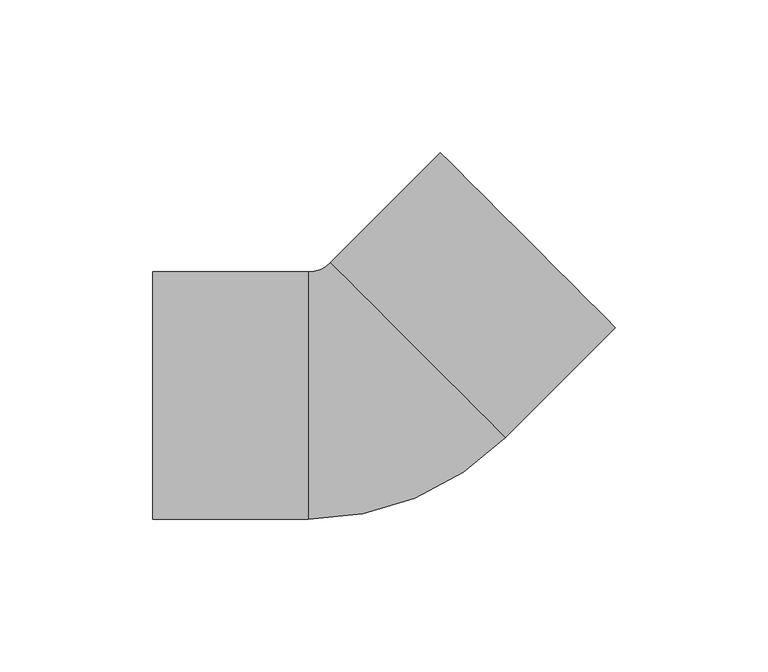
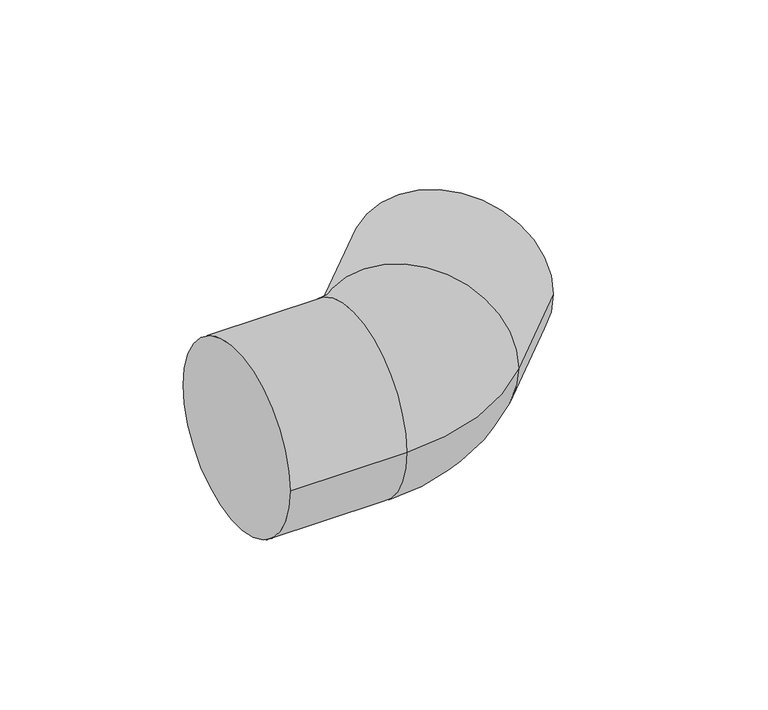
"""IFC4 building model written with IfcOpenShell, lengths in millimetres: pipe fitting geometry, 01051067 : Coudes à 45º."""

from ifc_helpers import new_model, si_unit, point, frame, origin, place, context, project, spatial, circle_curve, ellipse_curve, trimmed, source, transform, mapped, element, save
from ifc_brep_helpers import plane_surface, cylinder_surface, revolved_surface, advanced_brep


def pipe_fitting_8a1e7b22(model_context):
    return source(origin(), model_context, "Body", "AdvancedBrep", [
        advanced_brep(
        [(-72.0, -40.5, 0.0), (-72.0, 40.5, 0.0), (-21.0, -40.5, 0.0), (-21.0, 40.5, 0.0), (-13.7885822, 43.487067, 0.0), (43.487067, -13.7885822, 0.0), (79.5495129, 22.2738636, 0.0), (22.2738636, 79.5495129, 0.0)],
        [
            (0, 1, circle_curve(frame((-72.0, 0.0, 0.0), z_axis=(-1.0, 0.0, 0.0), x_axis=(0.0, 1.0, 0.0)), 40.5)),
            (1, 0, circle_curve(frame((-72.0, 0.0, 0.0), z_axis=(-1.0, 0.0, 0.0), x_axis=(0.0, 1.0, 0.0)), 40.5)),
            (0, 2),
            (2, 3, circle_curve(frame((-21.0, 0.0, 0.0), z_axis=(-1.0, 0.0, 0.0), x_axis=(0.0, 1.0, 0.0)), 40.5)),
            (3, 1),
            (3, 2, circle_curve(frame((-21.0, 0.0, 0.0), z_axis=(-1.0, 0.0, 0.0), x_axis=(0.0, 1.0, 0.0)), 40.5)),
            (4, 3, circle_curve(frame((-21.0, 50.6984848, 0.0), z_axis=(0.0, 0.0, -1.0), x_axis=(0.0, -1.0, 0.0)), 10.1984848)),
            (2, 5, circle_curve(frame((-21.0, 50.6984848, 0.0), z_axis=(0.0, 0.0, 1.0), x_axis=(0.0, -1.0, 0.0)), 91.1984848)),
            (5, 4, circle_curve(frame((14.8492424, 14.8492424, 0.0), z_axis=(-0.7071067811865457, -0.7071067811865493, 0.0), x_axis=(-0.7071067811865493, 0.7071067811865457, 0.0)), 40.5)),
            (4, 5, circle_curve(frame((14.8492424, 14.8492424, 0.0), z_axis=(-0.707106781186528, -0.707106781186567, 0.0), x_axis=(-0.707106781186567, 0.707106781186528, 0.0)), 40.5)),
            (6, 7, circle_curve(frame((50.9116882, 50.9116882, 0.0), z_axis=(0.7071067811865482, 0.7071067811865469, 0.0), x_axis=(-0.7071067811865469, 0.7071067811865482, 0.0)), 40.5)),
            (7, 6, circle_curve(frame((50.9116882, 50.9116882, 0.0), z_axis=(0.7071067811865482, 0.7071067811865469, 0.0), x_axis=(-0.7071067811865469, 0.7071067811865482, 0.0)), 40.5)),
            (5, 6),
            (7, 4),
        ],
        [
            plane_surface(frame((-72.0, 0.0, 0.0), z_axis=(-1.0, 0.0, 0.0), x_axis=(0.0, 0.0, 1.0))),
            cylinder_surface(frame((-72.0, 0.0, 0.0), z_axis=(-1.0, 0.0, 0.0), x_axis=(0.0, 1.0, 0.0)), 40.5),
            revolved_surface(trimmed(ellipse_curve(frame((-21.0, 0.0, 0.0), z_axis=(-1.0, 0.0, 0.0), x_axis=(0.0, 1.0, 0.0)), 40.5, 40.5), [point((-21.0, -40.5, 0.0))], [point((-21.0, 40.5, 0.0))], True, "CARTESIAN"), (-21.0, 50.6984848, 0.0), (0.0, 0.0, 1.0)),
            revolved_surface(trimmed(ellipse_curve(frame((-21.0, 0.0, 0.0), z_axis=(-1.0, 0.0, 0.0), x_axis=(0.0, 1.0, 0.0)), 40.5, 40.5), [point((-21.0, 40.5, 0.0))], [point((-21.0, -40.5, 0.0))], True, "CARTESIAN"), (-21.0, 50.6984848, 0.0), (0.0, 0.0, 1.0)),
            plane_surface(frame((50.9116882, 50.9116882, 0.0), z_axis=(0.7071067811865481, 0.7071067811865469, 0.0), x_axis=(0.0, 0.0, 1.0))),
            cylinder_surface(frame((14.8492424, 14.8492424, 0.0), z_axis=(-0.7071067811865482, -0.7071067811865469, 0.0), x_axis=(-0.7071067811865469, 0.7071067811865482, 0.0)), 40.5),
        ],
        [
            (0, [[1, 2]]),
            (1, [[-1, 3, 4, 5]]),
            (1, [[-2, -5, 6, -3]]),
            (2, [[7, -4, 8, 9]]),
            (3, [[-8, -6, -7, 10]]),
            (4, [[11, 12]]),
            (5, [[-9, 13, -12, 14]]),
            (5, [[-10, -14, -11, -13]]),
        ],
    ),
    ])


if __name__ == "__main__":
    model = new_model("IFC4")
    model_context = context("Model", 3, world=origin())
    ifc_project = project(units=[si_unit("LENGTHUNIT", "METRE", prefix="MILLI")], contexts=[model_context])
    site = spatial("IfcSite", under=ifc_project)
    building = spatial("IfcBuilding", under=site)
    placement = place(None, origin())
    pipe_fitting_shape = pipe_fitting_8a1e7b22(model_context)
    element("IfcPipeFitting", 1, ObjectType="01051067 : Coudes à 45º", at=placement, inside=building, context=model_context, shape_type="MappedRepresentation", body=[
        mapped(pipe_fitting_shape, transform((0.0, 0.0, 0.0), x_axis=(1.0, 0.0, 0.0), y_axis=(0.0, 1.0, 0.0), z_axis=(0.0, 0.0, 1.0))),
    ])
    save(model, "model.ifc")
